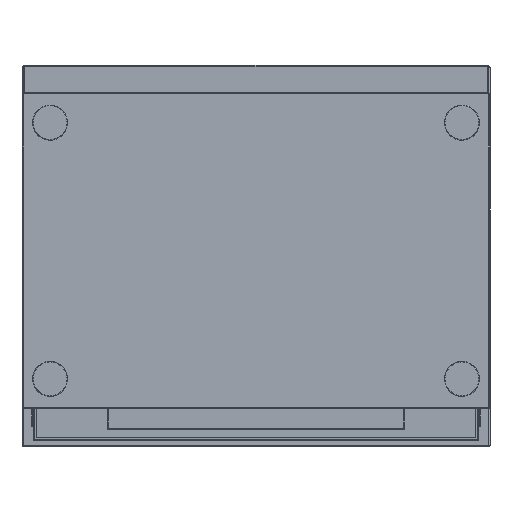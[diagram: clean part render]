
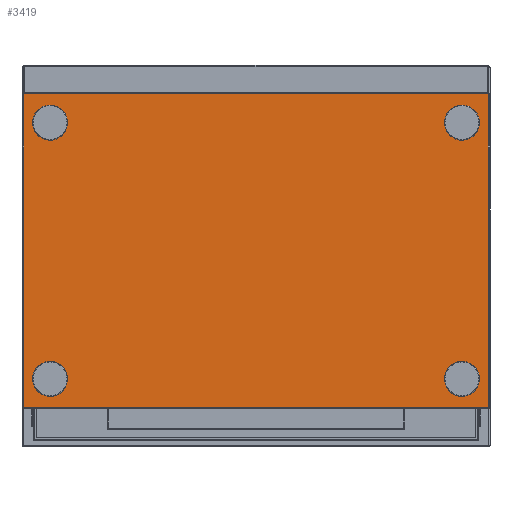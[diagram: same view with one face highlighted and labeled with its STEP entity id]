
A CAD part, front view. The second image highlights one B-rep face of the part: STEP entity #3419.
In plain terms, the highlighted planar face has unit normal (0, -1, 0).
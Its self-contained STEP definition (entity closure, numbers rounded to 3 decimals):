
#1205=CARTESIAN_POINT('',(352.,-352.5,-219.));
#1206=DIRECTION('',(0.,-1.,0.));
#1207=DIRECTION('',(1.,0.,0.));
#1208=AXIS2_PLACEMENT_3D('',#1205,#1206,#1207);
#1210=CARTESIAN_POINT('',(352.,-352.5,-219.));
#1211=DIRECTION('',(0.,-1.,0.));
#1212=DIRECTION('',(-1.,0.,0.));
#1213=AXIS2_PLACEMENT_3D('',#1210,#1211,#1212);
#1215=CARTESIAN_POINT('',(352.,-352.5,219.));
#1216=DIRECTION('',(0.,-1.,0.));
#1217=DIRECTION('',(1.,0.,0.));
#1218=AXIS2_PLACEMENT_3D('',#1215,#1216,#1217);
#1220=CARTESIAN_POINT('',(352.,-352.5,219.));
#1221=DIRECTION('',(0.,-1.,0.));
#1222=DIRECTION('',(-1.,0.,0.));
#1223=AXIS2_PLACEMENT_3D('',#1220,#1221,#1222);
#1225=CARTESIAN_POINT('',(-352.,-352.5,-219.));
#1226=DIRECTION('',(0.,1.,0.));
#1227=DIRECTION('',(-1.,0.,0.));
#1228=AXIS2_PLACEMENT_3D('',#1225,#1226,#1227);
#1230=CARTESIAN_POINT('',(-352.,-352.5,-219.));
#1231=DIRECTION('',(0.,1.,0.));
#1232=DIRECTION('',(1.,0.,0.));
#1233=AXIS2_PLACEMENT_3D('',#1230,#1231,#1232);
#1235=CARTESIAN_POINT('',(-352.,-352.5,219.));
#1236=DIRECTION('',(0.,1.,0.));
#1237=DIRECTION('',(-1.,0.,0.));
#1238=AXIS2_PLACEMENT_3D('',#1235,#1236,#1237);
#1240=CARTESIAN_POINT('',(-352.,-352.5,219.));
#1241=DIRECTION('',(0.,1.,0.));
#1242=DIRECTION('',(1.,0.,0.));
#1243=AXIS2_PLACEMENT_3D('',#1240,#1241,#1242);
#1245=DIRECTION('',(0.,0.,-1.));
#1246=VECTOR('',#1245,536.4);
#1247=CARTESIAN_POINT('',(397.2,-352.5,268.2));
#1248=LINE('',#1247,#1246);
#1249=DIRECTION('',(-1.,0.,0.));
#1250=VECTOR('',#1249,794.4);
#1251=CARTESIAN_POINT('',(397.2,-352.5,-268.2));
#1252=LINE('',#1251,#1250);
#1253=DIRECTION('',(0.,0.,1.));
#1254=VECTOR('',#1253,536.4);
#1255=CARTESIAN_POINT('',(-397.2,-352.5,-268.2));
#1256=LINE('',#1255,#1254);
#1257=DIRECTION('',(-1.,0.,0.));
#1258=VECTOR('',#1257,794.4);
#1259=CARTESIAN_POINT('',(397.2,-352.5,268.2));
#1260=LINE('',#1259,#1258);
#1784=CARTESIAN_POINT('',(382.,-352.5,-219.));
#1785=CARTESIAN_POINT('',(322.,-352.5,-219.));
#1786=VERTEX_POINT('',#1784);
#1787=VERTEX_POINT('',#1785);
#1816=CARTESIAN_POINT('',(397.2,-352.5,268.2));
#1817=CARTESIAN_POINT('',(397.2,-352.5,-268.2));
#1818=VERTEX_POINT('',#1816);
#1819=VERTEX_POINT('',#1817);
#1822=CARTESIAN_POINT('',(-397.2,-352.5,268.2));
#1823=VERTEX_POINT('',#1822);
#1826=CARTESIAN_POINT('',(-397.2,-352.5,-268.2));
#1827=VERTEX_POINT('',#1826);
#1884=CARTESIAN_POINT('',(382.,-352.5,219.));
#1885=CARTESIAN_POINT('',(322.,-352.5,219.));
#1886=VERTEX_POINT('',#1884);
#1887=VERTEX_POINT('',#1885);
#1892=CARTESIAN_POINT('',(-382.,-352.5,-219.));
#1893=VERTEX_POINT('',#1892);
#1894=CARTESIAN_POINT('',(-322.,-352.5,-219.));
#1895=VERTEX_POINT('',#1894);
#1900=CARTESIAN_POINT('',(-382.,-352.5,219.));
#1901=VERTEX_POINT('',#1900);
#1902=CARTESIAN_POINT('',(-322.,-352.5,219.));
#1903=VERTEX_POINT('',#1902);
#3382=CARTESIAN_POINT('',(-399.,-352.5,270.));
#3383=DIRECTION('',(0.,-1.,0.));
#3384=DIRECTION('',(0.,0.,-1.));
#3385=AXIS2_PLACEMENT_3D('',#3382,#3383,#3384);
#3386=PLANE('',#3385);
#3388=ORIENTED_EDGE('',*,*,#3387,.T.);
#3390=ORIENTED_EDGE('',*,*,#3389,.T.);
#3391=ORIENTED_EDGE('',*,*,#3350,.T.);
#3392=ORIENTED_EDGE('',*,*,#3373,.F.);
#3393=EDGE_LOOP('',(#3388,#3390,#3391,#3392));
#3394=FACE_OUTER_BOUND('',#3393,.F.);
#3396=ORIENTED_EDGE('',*,*,#3395,.T.);
#3398=ORIENTED_EDGE('',*,*,#3397,.T.);
#3399=EDGE_LOOP('',(#3396,#3398));
#3400=FACE_BOUND('',#3399,.F.);
#3402=ORIENTED_EDGE('',*,*,#3401,.F.);
#3404=ORIENTED_EDGE('',*,*,#3403,.F.);
#3405=EDGE_LOOP('',(#3402,#3404));
#3406=FACE_BOUND('',#3405,.F.);
#3408=ORIENTED_EDGE('',*,*,#3407,.F.);
#3410=ORIENTED_EDGE('',*,*,#3409,.F.);
#3411=EDGE_LOOP('',(#3408,#3410));
#3412=FACE_BOUND('',#3411,.F.);
#3414=ORIENTED_EDGE('',*,*,#3413,.T.);
#3416=ORIENTED_EDGE('',*,*,#3415,.T.);
#3417=EDGE_LOOP('',(#3414,#3416));
#3418=FACE_BOUND('',#3417,.F.);
#1209=CIRCLE('',#1208,30.);
#1214=CIRCLE('',#1213,30.);
#1219=CIRCLE('',#1218,30.);
#1224=CIRCLE('',#1223,30.);
#1229=CIRCLE('',#1228,30.);
#1234=CIRCLE('',#1233,30.);
#1239=CIRCLE('',#1238,30.);
#1244=CIRCLE('',#1243,30.);
#3350=EDGE_CURVE('',#1827,#1823,#1256,.T.);
#3373=EDGE_CURVE('',#1818,#1823,#1260,.T.);
#3387=EDGE_CURVE('',#1818,#1819,#1248,.T.);
#3389=EDGE_CURVE('',#1819,#1827,#1252,.T.);
#3395=EDGE_CURVE('',#1886,#1887,#1219,.T.);
#3397=EDGE_CURVE('',#1887,#1886,#1224,.T.);
#3401=EDGE_CURVE('',#1893,#1895,#1229,.T.);
#3403=EDGE_CURVE('',#1895,#1893,#1234,.T.);
#3407=EDGE_CURVE('',#1901,#1903,#1239,.T.);
#3409=EDGE_CURVE('',#1903,#1901,#1244,.T.);
#3413=EDGE_CURVE('',#1786,#1787,#1209,.T.);
#3415=EDGE_CURVE('',#1787,#1786,#1214,.T.);
#3419=ADVANCED_FACE('',(#3394,#3400,#3406,#3412,#3418),#3386,.T.);
